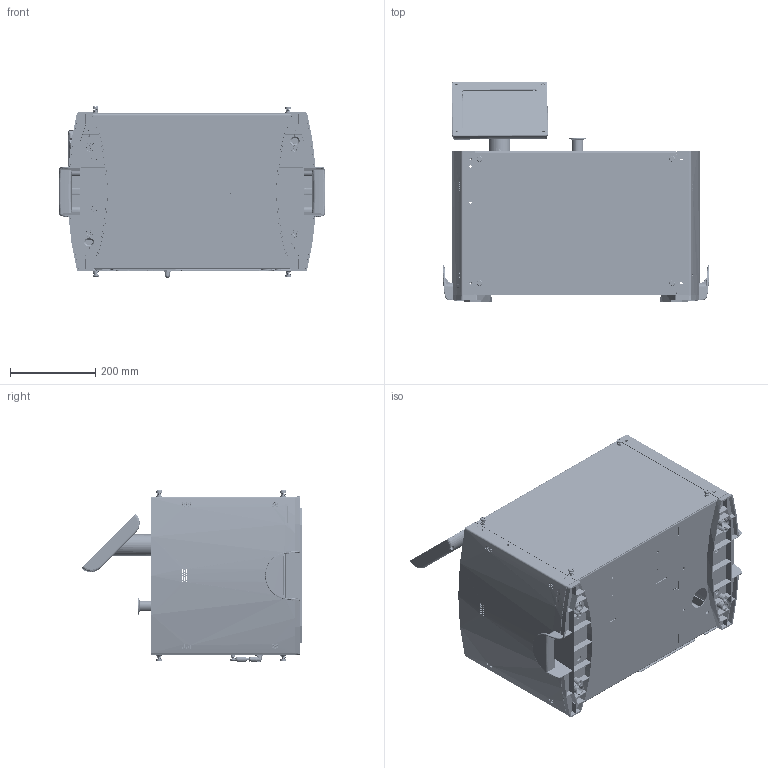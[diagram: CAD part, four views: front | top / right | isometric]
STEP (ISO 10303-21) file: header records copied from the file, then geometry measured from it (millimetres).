
FILE_DESCRIPTION(('Creo Elements/Direct Modeling STEP Export'),'2;1');
FILE_NAME('unit.stp','2017-03-15T11:17:13',(''),(''),'PTC Creo Elements/Direct Modeling STEP processor for AP214 (Solid Model)','PTC Creo Elements/Direct Modeling 19.0E 27-Jun-2016 (C) Parametric Technology GmbH','');
FILE_SCHEMA(('AUTOMOTIVE_DESIGN { 1 0 10303 214 1 1 1 1 }'));
Length unit declared in the file: millimetre
Products named in the file (70): tray_top_dfm; tray_metal; panel_rear; panel_fr; foot-unit.02; foot-unit; enclosure-end-panel-front.03.1; enclosure-end-panel-front.03; enclosure-end-panel-front.02.1; enclosure-end-panel-front.02; cable_usb; Skin_Group1; Silencer_6mm-Stem-DIA_45mm-OA-LG_porous_Palstic; RS232_connector.02; RS232_connector; R2017002; KS250100203; Fitting-Union_Elbow_M14X1.5_6mm-tubing-DIA; DISPLAY-ENCLOSURE-FRONT_COVER_1.PRT; DISPLAY-ENCLOSURE-BACK_COVER_6.PRT; Cover_IO; Captive-Screw_Spring-loaded_M5X0.8_7.62mm-LG_Carbon_Steel_natural-finis
h; Captive-Screw_Spring-loaded_M5X0.8_7.62mm-LG_Carbon_Steel_natural-finis
h.08; Captive-Screw_Spring-loaded_M5X0.8_7.62mm-LG_Carbon_Steel_natural-finis
h.07; Captive-Screw_Spring-loaded_M5X0.8_7.62mm-LG_Carbon_Steel_natural-finis
h.06; Captive-Screw_Spring-loaded_M5X0.8_7.62mm-LG_Carbon_Steel_natural-finis
h.05; Captive-Screw_Spring-loaded_M5X0.8_7.62mm-LG_Carbon_Steel_natural-finis
h.04; Captive-Screw_Spring-loaded_M5X0.8_7.62mm-LG_Carbon_Steel_natural-finis
h.03; Captive-Screw_Spring-loaded_M5X0.8_7.62mm-LG_Carbon_Steel_natural-finis
h.02; Cap-pry-out_Dome-HD_8mm-mounting-Hole-DIA_1.2mm-PNL_10.4mm-HT_Nylon_6-6
_Black; 84IN_OPEN-FRAME_ASMBdy22; p1; p2; p3; p4; p5; p6; p7; p8; p9 ...
Assembly tree (44 placements, depth 3):
  tray_top_dfm
  tray_metal
    tray_metal
  panel_rear
    panel_rear
  panel_fr
  foot-unit.02
    foot-unit.02
Bounding box: 627.11 x 518.28 x 403.73 mm (x, y, z)
Volume: 3695397.7 mm3; surface area: 3205727.5 mm2
Topology: 54 solids, 54 shells, 7519 faces, 22359 edges, 15291 vertices
Faces by surface type: cylinder 4234, plane 1961, cone 520, bspline 449, torus 321, revolution 12, extrusion 12, sphere 10
Entity records: 254039 total; most frequent: CARTESIAN_POINT 73995, ORIENTED_EDGE 39580, DIRECTION 31524, EDGE_CURVE 19790, VERTEX_POINT 13697, AXIS2_PLACEMENT_3D 11037, EDGE_LOOP 10473, VECTOR 9443
